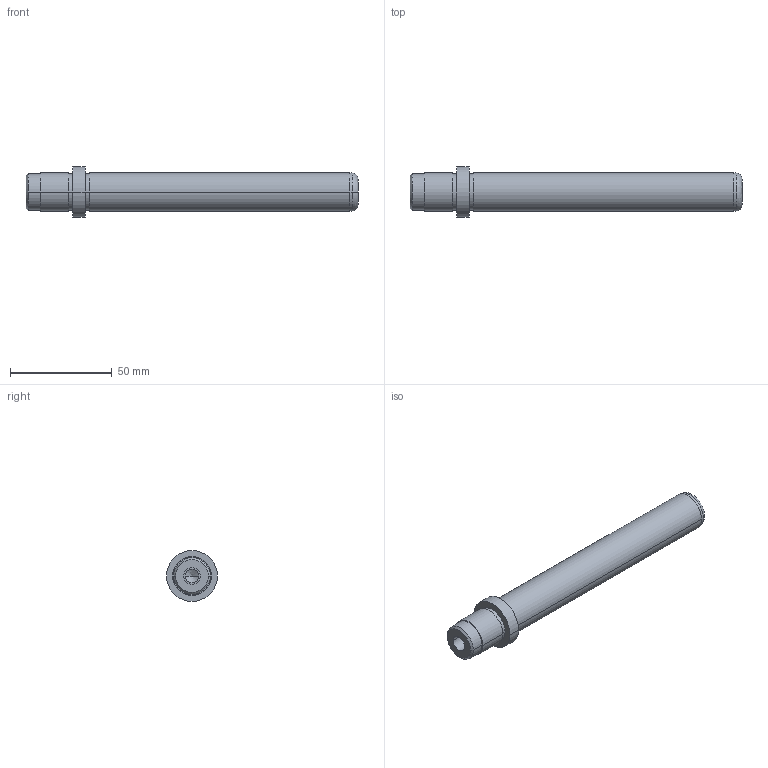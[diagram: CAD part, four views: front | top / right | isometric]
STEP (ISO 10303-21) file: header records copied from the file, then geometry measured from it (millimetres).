
FILE_DESCRIPTION( ( 'STEP AP203' ), '1' );
FILE_NAME( 'D:/Delta 3 D/D00/D00 - 19x140x23.step', '2003-01-02T06:38:16', ( ' ' ), ( ' ' ), 'XStep 1.0', ' ', ' ' );
FILE_SCHEMA( ( 'CONFIG_CONTROL_DESIGN' ) );
Length unit declared in the file: metre
Products named in the file (1): 1
Bounding box: 163 x 25 x 25 mm (x, y, z)
Volume: 44762.6 mm3; surface area: 11956.7 mm2
Topology: 1 solids, 1 shells, 39 faces, 78 edges, 48 vertices
Faces by surface type: revolution 28, bspline 11
Entity records: 1137 total; most frequent: CARTESIAN_POINT 277, DIRECTION 154, ORIENTED_EDGE 152, EDGE_CURVE 76, AXIS2_PLACEMENT_3D 49, EDGE_LOOP 48, VERTEX_POINT 48, CIRCLE 48
